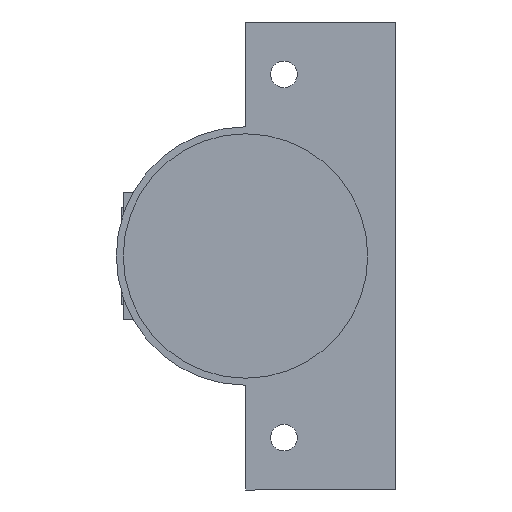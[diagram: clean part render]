
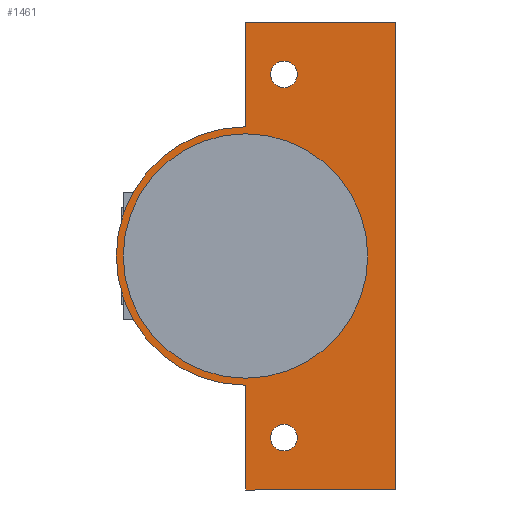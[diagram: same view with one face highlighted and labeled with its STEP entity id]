
A CAD part, front view. The second image highlights one B-rep face of the part: STEP entity #1461.
In plain terms, the highlighted planar face has unit normal (0, -1, 0).
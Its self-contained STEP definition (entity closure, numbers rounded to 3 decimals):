
#16 = ORIENTED_EDGE ( 'NONE', *, *, #871, .F. ) ;
#17 = ORIENTED_EDGE ( 'NONE', *, *, #805, .F. ) ;
#18 = ORIENTED_EDGE ( 'NONE', *, *, #725, .T. ) ;
#19 = ORIENTED_EDGE ( 'NONE', *, *, #727, .T. ) ;
#20 = ORIENTED_EDGE ( 'NONE', *, *, #722, .T. ) ;
#21 = ORIENTED_EDGE ( 'NONE', *, *, #702, .T. ) ;
#22 = ORIENTED_EDGE ( 'NONE', *, *, #673, .F. ) ;
#23 = ORIENTED_EDGE ( 'NONE', *, *, #804, .F. ) ;
#24 = ORIENTED_EDGE ( 'NONE', *, *, #672, .F. ) ;
#25 = ORIENTED_EDGE ( 'NONE', *, *, #671, .F. ) ;
#26 = ORIENTED_EDGE ( 'NONE', *, *, #705, .F. ) ;
#27 = ORIENTED_EDGE ( 'NONE', *, *, #831, .F. ) ;
#67 = EDGE_LOOP ( 'NONE', ( #21, #20 ) ) ;
#71 = EDGE_LOOP ( 'NONE', ( #27, #26, #25, #24, #23, #22 ) ) ;
#78 = EDGE_LOOP ( 'NONE', ( #19, #18 ) ) ;
#81 = EDGE_LOOP ( 'NONE', ( #17, #16 ) ) ;
#336 = LINE ( 'NONE', #998, #351 ) ;
#343 = LINE ( 'NONE', #996, #349 ) ;
#344 = LINE ( 'NONE', #994, #347 ) ;
#347 = VECTOR ( 'NONE', #997, 1000. ) ;
#349 = VECTOR ( 'NONE', #1000, 1000. ) ;
#351 = VECTOR ( 'NONE', #1002, 1000. ) ;
#407 = CIRCLE ( 'NONE', #841, 1.9 ) ;
#410 = LINE ( 'NONE', #1068, #411 ) ;
#411 = VECTOR ( 'NONE', #1069, 1000. ) ;
#443 = CIRCLE ( 'NONE', #843, 1.9 ) ;
#449 = CIRCLE ( 'NONE', #748, 1.9 ) ;
#452 = CIRCLE ( 'NONE', #753, 1.9 ) ;
#484 = CIRCLE ( 'NONE', #750, 18.5 ) ;
#486 = CIRCLE ( 'NONE', #846, 17.5 ) ;
#519 = VECTOR ( 'NONE', #1223, 1000. ) ;
#528 = LINE ( 'NONE', #1216, #519 ) ;
#552 = CIRCLE ( 'NONE', #758, 17.5 ) ;
#586 = FACE_OUTER_BOUND ( 'NONE', #71, .T. ) ;
#591 = FACE_BOUND ( 'NONE', #67, .T. ) ;
#593 = FACE_BOUND ( 'NONE', #78, .T. ) ;
#595 = FACE_BOUND ( 'NONE', #81, .T. ) ;
#671 = EDGE_CURVE ( 'NONE', #910, #913, #344, .T. ) ;
#672 = EDGE_CURVE ( 'NONE', #920, #910, #343, .T. ) ;
#673 = EDGE_CURVE ( 'NONE', #909, #915, #336, .T. ) ;
#702 = EDGE_CURVE ( 'NONE', #921, #904, #407, .T. ) ;
#705 = EDGE_CURVE ( 'NONE', #913, #917, #410, .T. ) ;
#722 = EDGE_CURVE ( 'NONE', #904, #921, #443, .T. ) ;
#725 = EDGE_CURVE ( 'NONE', #897, #902, #449, .T. ) ;
#727 = EDGE_CURVE ( 'NONE', #902, #897, #452, .T. ) ;
#748 = AXIS2_PLACEMENT_3D ( 'NONE', #1113, #1114, #1115 ) ;
#750 = AXIS2_PLACEMENT_3D ( 'NONE', #1160, #1162, #1163 ) ;
#753 = AXIS2_PLACEMENT_3D ( 'NONE', #1116, #1118, #1119 ) ;
#758 = AXIS2_PLACEMENT_3D ( 'NONE', #1242, #1251, #1252 ) ;
#804 = EDGE_CURVE ( 'NONE', #915, #920, #484, .T. ) ;
#805 = EDGE_CURVE ( 'NONE', #914, #911, #486, .T. ) ;
#831 = EDGE_CURVE ( 'NONE', #917, #909, #528, .T. ) ;
#841 = AXIS2_PLACEMENT_3D ( 'NONE', #1055, #1062, #1063 ) ;
#843 = AXIS2_PLACEMENT_3D ( 'NONE', #1104, #1106, #1107 ) ;
#846 = AXIS2_PLACEMENT_3D ( 'NONE', #1152, #1165, #1166 ) ;
#848 = AXIS2_PLACEMENT_3D ( 'NONE', #1378, #1391, #1392 ) ;
#871 = EDGE_CURVE ( 'NONE', #911, #914, #552, .T. ) ;
#897 = VERTEX_POINT ( 'NONE', #1291 ) ;
#902 = VERTEX_POINT ( 'NONE', #1296 ) ;
#904 = VERTEX_POINT ( 'NONE', #1298 ) ;
#909 = VERTEX_POINT ( 'NONE', #1303 ) ;
#910 = VERTEX_POINT ( 'NONE', #1304 ) ;
#911 = VERTEX_POINT ( 'NONE', #1305 ) ;
#913 = VERTEX_POINT ( 'NONE', #1307 ) ;
#914 = VERTEX_POINT ( 'NONE', #1308 ) ;
#915 = VERTEX_POINT ( 'NONE', #1309 ) ;
#917 = VERTEX_POINT ( 'NONE', #1311 ) ;
#920 = VERTEX_POINT ( 'NONE', #1314 ) ;
#921 = VERTEX_POINT ( 'NONE', #1315 ) ;
#994 = CARTESIAN_POINT ( 'NONE',  ( 21.5, 0., 33.5 ) ) ;
#996 = CARTESIAN_POINT ( 'NONE',  ( 21.5, 0., 18.5 ) ) ;
#997 = DIRECTION ( 'NONE',  ( 1., 0., 0. ) ) ;
#998 = CARTESIAN_POINT ( 'NONE',  ( 21.5, 0., -33.5 ) ) ;
#1000 = DIRECTION ( 'NONE',  ( 0., 0., 1. ) ) ;
#1002 = DIRECTION ( 'NONE',  ( 0., 0., 1. ) ) ;
#1055 = CARTESIAN_POINT ( 'NONE',  ( 27., 0., 26. ) ) ;
#1062 = DIRECTION ( 'NONE',  ( 0., 1., 0. ) ) ;
#1063 = DIRECTION ( 'NONE',  ( -1., 0., 0. ) ) ;
#1068 = CARTESIAN_POINT ( 'NONE',  ( 43., 0., 33.5 ) ) ;
#1069 = DIRECTION ( 'NONE',  ( 0., 0., -1. ) ) ;
#1104 = CARTESIAN_POINT ( 'NONE',  ( 27., 0., 26. ) ) ;
#1106 = DIRECTION ( 'NONE',  ( 0., 1., 0. ) ) ;
#1107 = DIRECTION ( 'NONE',  ( -1., 0., 0. ) ) ;
#1113 = CARTESIAN_POINT ( 'NONE',  ( 27., 0., -26. ) ) ;
#1114 = DIRECTION ( 'NONE',  ( 0., 1., 0. ) ) ;
#1115 = DIRECTION ( 'NONE',  ( -1., 0., 0. ) ) ;
#1116 = CARTESIAN_POINT ( 'NONE',  ( 27., 0., -26. ) ) ;
#1118 = DIRECTION ( 'NONE',  ( 0., 1., 0. ) ) ;
#1119 = DIRECTION ( 'NONE',  ( -1., 0., 0. ) ) ;
#1152 = CARTESIAN_POINT ( 'NONE',  ( 21.5, 0., 0. ) ) ;
#1160 = CARTESIAN_POINT ( 'NONE',  ( 21.5, 0., 0. ) ) ;
#1162 = DIRECTION ( 'NONE',  ( 0., 1., 0. ) ) ;
#1163 = DIRECTION ( 'NONE',  ( -1., 0., 0. ) ) ;
#1165 = DIRECTION ( 'NONE',  ( 0., -1., 0. ) ) ;
#1166 = DIRECTION ( 'NONE',  ( -1., 0., 0. ) ) ;
#1216 = CARTESIAN_POINT ( 'NONE',  ( 43., 0., -33.5 ) ) ;
#1223 = DIRECTION ( 'NONE',  ( -1., 0., 0. ) ) ;
#1242 = CARTESIAN_POINT ( 'NONE',  ( 21.5, 0., 0. ) ) ;
#1251 = DIRECTION ( 'NONE',  ( 0., -1., 0. ) ) ;
#1252 = DIRECTION ( 'NONE',  ( -1., 0., 0. ) ) ;
#1291 = CARTESIAN_POINT ( 'NONE',  ( 28.9, 0., -26. ) ) ;
#1296 = CARTESIAN_POINT ( 'NONE',  ( 25.1, 0., -26. ) ) ;
#1298 = CARTESIAN_POINT ( 'NONE',  ( 28.9, 0., 26. ) ) ;
#1303 = CARTESIAN_POINT ( 'NONE',  ( 21.5, 0., -33.5 ) ) ;
#1304 = CARTESIAN_POINT ( 'NONE',  ( 21.5, 0., 33.5 ) ) ;
#1305 = CARTESIAN_POINT ( 'NONE',  ( 39., 0., 0. ) ) ;
#1307 = CARTESIAN_POINT ( 'NONE',  ( 43., 0., 33.5 ) ) ;
#1308 = CARTESIAN_POINT ( 'NONE',  ( 4., 0., 0. ) ) ;
#1309 = CARTESIAN_POINT ( 'NONE',  ( 21.5, 0., -18.5 ) ) ;
#1311 = CARTESIAN_POINT ( 'NONE',  ( 43., 0., -33.5 ) ) ;
#1314 = CARTESIAN_POINT ( 'NONE',  ( 21.5, 0., 18.5 ) ) ;
#1315 = CARTESIAN_POINT ( 'NONE',  ( 25.1, 0., 26. ) ) ;
#1374 = PLANE ( 'NONE',  #848 ) ;
#1378 = CARTESIAN_POINT ( 'NONE',  ( 21.5, 0., 0. ) ) ;
#1391 = DIRECTION ( 'NONE',  ( 0., 1., 0. ) ) ;
#1392 = DIRECTION ( 'NONE',  ( -1., 0., 0. ) ) ;
#1461 = ADVANCED_FACE ( 'NONE', ( #586, #591, #593, #595 ), #1374, .F. ) ;
